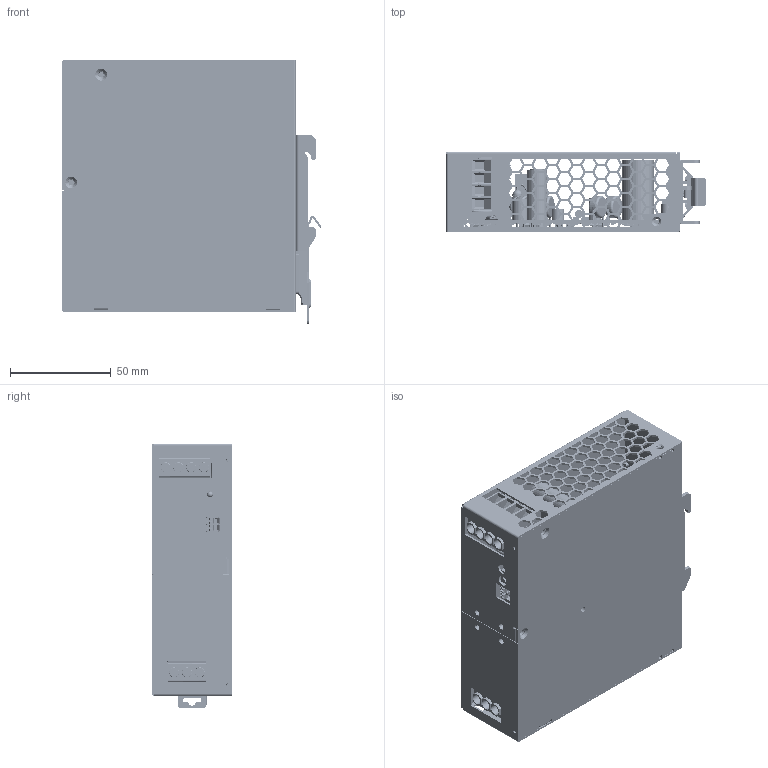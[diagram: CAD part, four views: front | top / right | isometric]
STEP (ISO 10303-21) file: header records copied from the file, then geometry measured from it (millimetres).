
FILE_DESCRIPTION(('Creo Elements/Direct Modeling STEP Export'),'2;1');
FILE_NAME('XDR-240.stp','2025-02-12T18:23:23',(''),(''),'Creo Elements/Direct Modeling STEP processor for AP214 (Solid Model)','Creo Elements/Direct Modeling 19.0G 27-Nov-2017 (C) Parametric Technology GmbH','');
FILE_SCHEMA(('AUTOMOTIVE_DESIGN { 1 0 10303 214 1 1 1 1 }'));
Length unit declared in the file: millimetre
Products named in the file (491): BOARD.PRT; CYLINDER-8332.PRT; 980085392.ASM; C1A.ASM; 1BC1-Y-L140W040-P100.PRT; C120.ASM; 1BC1-Y-L110W040-P075_1.PRT; 1BC1-Y-L110W040-P075_2.PRT; 1BC1-Y-L110W040-P075_3.PRT; 1BC1-Y-L110W040-P075.ASM; C115.ASM; CYLINDER-21395.PRT; 980086000.ASM.4; EXTRUDED-21592.PRT; 833931344.ASM; C1.ASM; EXTRUDED-22003.PRT; 833931504.ASM; CYLINDER-25261.PRT; 758088880.ASM; CYLINDER-25458.PRT; 980086304.ASM; CYLINDER-25650.PRT; 980086152.ASM; C110.ASM; C119.ASM; CYLINDER-25905.PRT; 980086456.ASM.6; EXTRUDED-26097.PRT; 855293136.ASM; EXTRUDED-26469.PRT; 855293296.ASM; FS1.ASM; 758081128_1.PRT; 758081128_2.PRT; 758081128_3.PRT; 758081128_4.PRT; 758081128.ASM; R1.ASM; 758078088_1.PRT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
Assembly tree (721 placements, depth 8):
  XDR-240E
    零件1.3
    零件1.2
    XDR-240E.stp
      _X2_4E0A4E0B76D6_X0__ASM.ASM
        _X2_4E0A76D6_X0_-389460_ASM.ASM
          _X2_4E0A76D6_X0_-389130_PRT.PRT
        _X2_4E0B76D6_X0__PRT.PRT
    XDR-240EA-R2X.step
      PCB.ASM
        HS2.ASM
          855281776.ASM
            EXTRUDED-414035.PRT
          855292336.ASM
            EXTRUDED-412727.PRT
          1GG2-MHS059.ASM
            EXTRUDED-408573.PRT
        R130.ASM
          980095576.ASM
            980095576_4.PRT
            980095576_3.PRT
            980095576_2.PRT
            980095576_1.PRT
        R129.ASM
          980095576.ASM
            980095576_4.PRT
            980095576_3.PRT
            980095576_2.PRT
            980095576_1.PRT
        C8.ASM
          758085384.PRT
        C7.ASM
          758085384.PRT
        R152.ASM
          758081888.ASM
            758081888_4.PRT
            758081888_3.PRT
            758081888_2.PRT
            758081888_1.PRT
        C31.ASM
          1BC1-Y-L140W040-P100.PRT
        C32.ASM
          1BC1-Y-L140W040-P100.PRT
        CN3.ASM
          DG212R-THR-3_5-02P-13-1000A_Z_H.PRT
        C23.ASM
          1BC1-Y-L140W040-P100.PRT
        R122.ASM
          980095576.ASM
            980095576_4.PRT
            980095576_3.PRT
            980095576_2.PRT
            980095576_1.PRT
        C25.ASM
          758089488.ASM  x4
            CYLINDER-75358.PRT
          980074904.ASM
            CYLINDER-75166.PRT
          855290416.ASM
            EXTRUDED-72610.PRT
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Bounding box: 129.04 x 40 x 131.44 mm (x, y, z)
Volume: 134813.1 mm3; surface area: 172621.8 mm2
Topology: 602 solids, 638 shells, 20143 faces, 53785 edges, 35310 vertices
Faces by surface type: plane 12822, extrusion 3763, cylinder 2617, sphere 488, torus 288, cone 82, bspline 78, revolution 5
Entity records: 447108 total; most frequent: CARTESIAN_POINT 200625, ORIENTED_EDGE 48004, DIRECTION 41614, EDGE_CURVE 24026, VECTOR 20135, LINE 19571, VERTEX_POINT 15913, AXIS2_PLACEMENT_3D 10737
